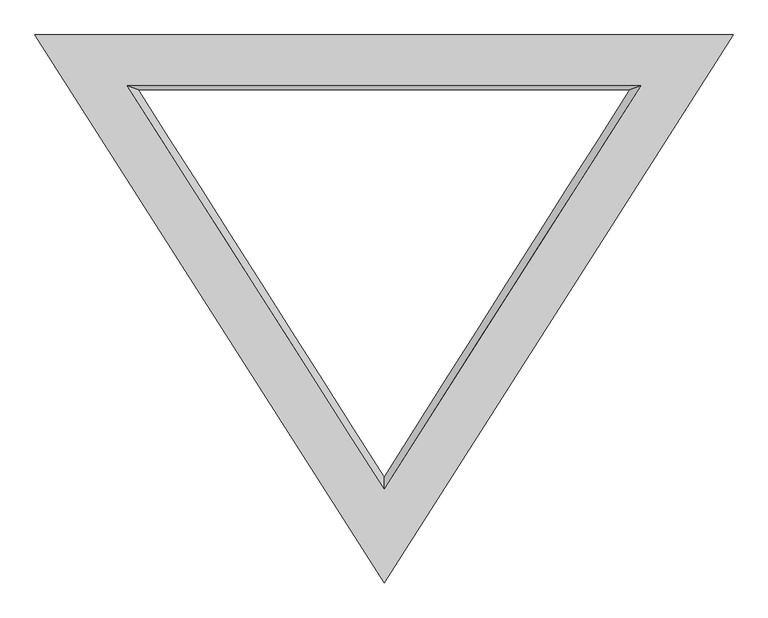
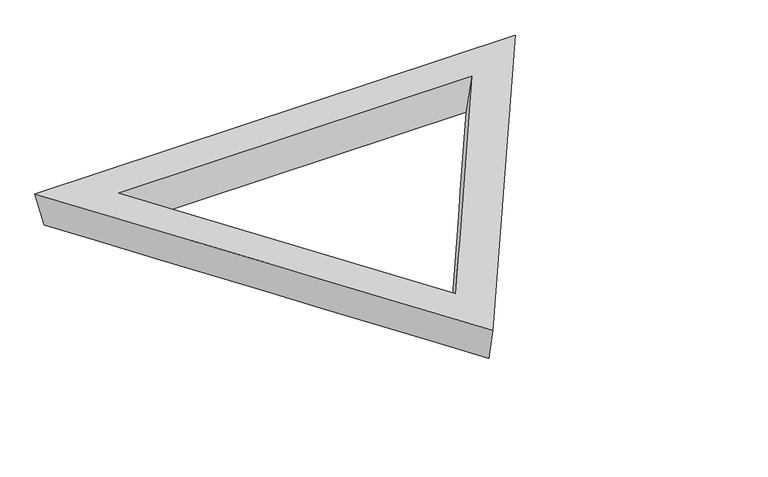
"""IFC4 building model written with IfcOpenShell, lengths in millimetres: plate geometry."""

from ifc_helpers import new_model, si_unit, frame, origin, place, context, project, spatial, source, transform, mapped, element, save
from ifc_brep_helpers import plane_surface, spline_surface, advanced_brep


def plate_49fd275a(model_context):
    return source(origin(), model_context, "Body", "AdvancedBrep", [
        advanced_brep(
        [(5109.0489049, 5589.8351689, 0.0), (5065.5304348, 5605.7829628, 197.7089017), (6096.0, 3988.3285992, 198.2917035), (6096.0, 4033.3777205, 0.0), (7126.4695652, 5605.7829628, 197.7089017), (7082.9510951, 5589.8351689, 0.0), (6096.0, 3653.9296621, 0.0), (7452.4087631, 5793.0351689, 0.0), (7496.8614846, 5808.9829496, 197.6356846), (6096.0, 3610.1508856, 198.4279686), (4739.5912369, 5793.0351689, 0.0), (4695.1385154, 5808.9829496, 197.6356846)],
        [
            (0, 1),
            (1, 2),
            (2, 3),
            (3, 0),
            (2, 4),
            (4, 5),
            (5, 3),
            (0, 5),
            (4, 1),
            (6, 7),
            (7, 8),
            (8, 9),
            (9, 6),
            (7, 10),
            (10, 11),
            (11, 8),
            (9, 11),
            (10, 6),
        ],
        [
            spline_surface(1, 1, [[(5109.0489049, 5589.8351689, 0.0), (6096.0, 4033.3777205, 0.0)], [(5065.5304348, 5605.7829628, 197.7089017), (6096.0, 3988.3285992, 198.2917035)]], [2, 2], [2, 2], [0.0, 1.0], [0.0, 1.0]),
            spline_surface(1, 1, [[(6096.0, 4033.3777205, 0.0), (7082.9510951, 5589.8351689, 0.0)], [(6096.0, 3988.3285992, 198.2917035), (7126.4695652, 5605.7829628, 197.7089017)]], [2, 2], [2, 2], [0.0, 1.0], [0.0, 1.0]),
            plane_surface(frame((6096.0, 5589.8351689, 0.0), z_axis=(0.0, -0.9967625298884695, 0.08040185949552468), x_axis=(-1.0, 0.0, 0.0))),
            spline_surface(1, 1, [[(6096.0, 3653.9296621, 0.0), (6096.0, 3610.1508856, 198.4279686)], [(7452.4087631, 5793.0351689, 0.0), (7496.8614846, 5808.9829496, 197.6356846)]], [2, 2], [2, 2], [0.0, 1.0], [0.0, 1.0]),
            plane_surface(frame((6096.0, 5793.0351689, 0.0), z_axis=(0.0, 0.9967601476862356, -0.08043138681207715), x_axis=(-1.0, 0.0, 0.0))),
            spline_surface(1, 1, [[(4739.5912369, 5793.0351689, 0.0), (4695.1385154, 5808.9829496, 197.6356846)], [(6096.0, 3653.9296621, 0.0), (6096.0, 3610.1508856, 198.4279686)]], [2, 2], [2, 2], [0.0, 1.0], [0.0, 1.0]),
            plane_surface(frame((6096.0, 5076.0389282, 197.8997793), z_axis=(0.0, 0.00036032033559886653, 0.9999999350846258), x_axis=(0.5373134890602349, -0.8433825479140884, 0.0003038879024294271))),
            plane_surface(frame((6096.0, 5080.0, 0.0), z_axis=(0.0, 0.0, -1.0), x_axis=(-0.5355146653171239, 0.8445259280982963, 0.0))),
        ],
        [
            (0, [[1, 2, 3, 4]]),
            (1, [[-3, 5, 6, 7]]),
            (2, [[-1, 8, -6, 9]]),
            (3, [[10, 11, 12, 13]]),
            (4, [[-11, 14, 15, 16]]),
            (5, [[-13, 17, -15, 18]]),
            (6, [[-12, -16, -17], [-2, -9, -5]]),
            (7, [[-10, -18, -14], [-4, -7, -8]]),
        ],
    ),
    ])


if __name__ == "__main__":
    model = new_model("IFC4")
    model_context = context("Model", 3, world=origin())
    ifc_project = project(units=[si_unit("LENGTHUNIT", "METRE", prefix="MILLI")], contexts=[model_context])
    site = spatial("IfcSite", under=ifc_project)
    building = spatial("IfcBuilding", under=site)
    placement = place(None, origin())
    plate_shape = plate_49fd275a(model_context)
    element("IfcPlate", 1, ObjectType="tn_cpanel_patbase_triangle_flat_seamless_frame_02_cylinder : tn_cpanel_pattern_mullion_t8\"xh8\"", at=placement, inside=building, context=model_context, shape_type="MappedRepresentation", body=[
        mapped(plate_shape, transform((0.0, 0.0, 0.0), x_axis=(1.0, 0.0, 0.0), y_axis=(0.0, 1.0, 0.0), z_axis=(0.0, 0.0, 1.0))),
    ])
    save(model, "model.ifc")
